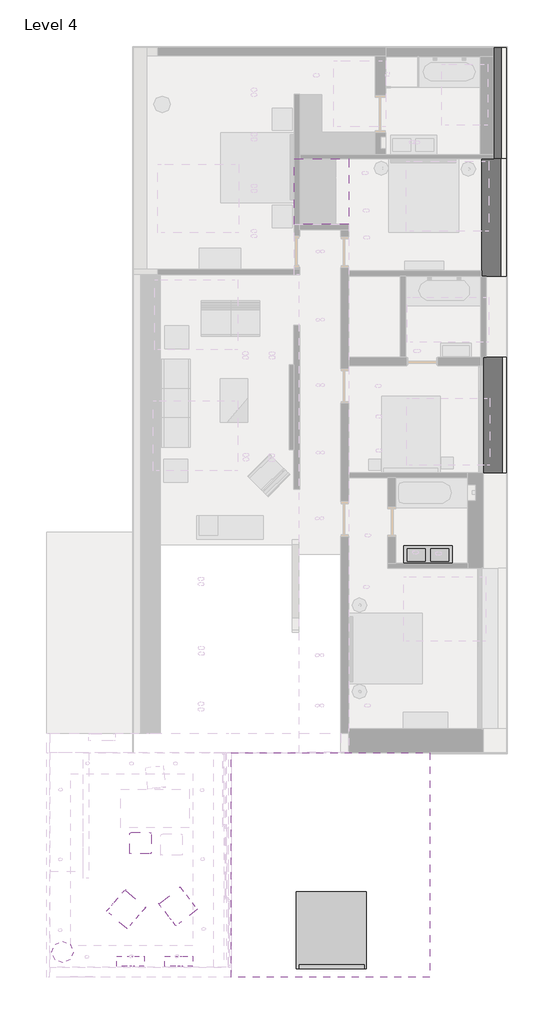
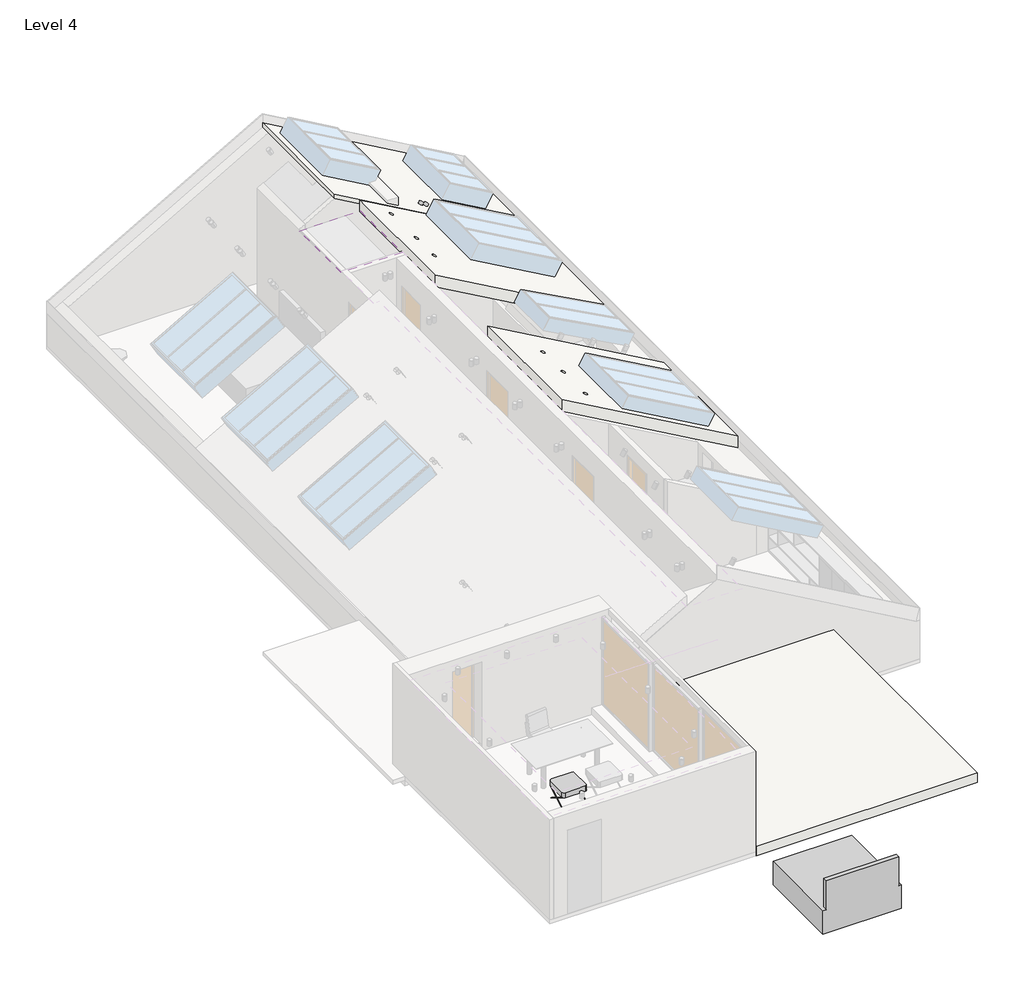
# One storey, part 4 of 5: 7 furniture elements, 4 coverings, 1 flow terminal, 1 slab.
"""IFC4 building model written with IfcOpenShell, lengths in millimetres."""

from ifc_helpers import new_model, si_unit, frame, origin, place, context, project, spatial, polyline, circle_curve, outline, extrude, transform, mapped, element, save
from ifc_brep_helpers import plane_surface, revolved_surface, advanced_brep
from components import sink_02_sink_02_cf3d63df, bed_02_bed_02_e58199c8, chair_1_chair_02_2_ef072ba1, chair_1_chair_03_2_cc471011, shelf_1_shelf_01_2_4a3e9cca, table_1_table_04_2_2a249767

model = new_model("IFC4")

# Units and contexts
model_context = context("Model", 3, world=origin())
ifc_project = project(units=[si_unit("LENGTHUNIT", "METRE", prefix="MILLI")], contexts=[model_context])

# Site, building, storey
site = spatial("IfcSite", under=ifc_project)
building = spatial("IfcBuilding", under=site)
storey = spatial("IfcBuildingStorey", under=building, Name="Level 4", Elevation=8080.0)

# Coverings
placement = place(None, origin())
element("IfcCovering", 1, ObjectType="Ceiling 3", at=placement, inside=storey, context=model_context, shape_type="AdvancedBrep", body=[
    advanced_brep(
    [(4897.3010582, 21310.5978406, 9192.3302965), (4897.3010582, 24410.5978406, 9192.3302965), (-122.6989418, 24410.5978406, 12067.3114042), (-122.6989418, 21310.5978406, 12067.3114042), (4152.2335295, 23920.4757913, 9619.0344935), (4152.2335295, 22270.4757913, 9619.0344935), (3110.9149854, 22270.4757913, 10215.4032467), (3110.9149854, 23920.4757913, 10215.4032467), (1322.0960381, 24020.5772713, 11239.8695174), (1322.0960381, 22220.5772713, 11239.8695174), (107.2244034, 22220.5772713, 11935.6330628), (107.2244034, 24020.5772713, 11935.6330628), (2288.1202814, 21724.0462651, 10686.6222168), (2288.1202814, 21824.0462651, 10686.6222168), (2409.4839647, 21716.3603994, 10617.11658), (2409.4839647, 21816.3603994, 10617.11658), (4897.3010582, 24410.5978406, 9077.091784), (4897.3010582, 21310.5978406, 9077.091784), (-122.6989418, 21310.5978406, 11952.0728917), (-122.6989418, 24410.5978406, 11952.0728917), (4102.5361333, 22270.4757913, 9532.2579482), (4102.5361333, 23920.4757913, 9532.2579482), (3061.2175893, 23920.4757913, 10128.6267014), (3061.2175893, 22270.4757913, 10128.6267014), (1272.398642, 22220.5772713, 11153.0929721), (1272.398642, 24020.5772713, 11153.0929721), (57.5270072, 24020.5772713, 11848.8565175), (57.5270072, 22220.5772713, 11848.8565175), (2238.4228853, 21824.0462651, 10599.8456714), (2238.4228853, 21724.0462651, 10599.8456714), (2359.7865686, 21816.3603994, 10530.3400347), (2359.7865686, 21716.3603994, 10530.3400347)],
    [
        (0, 1),
        (1, 2),
        (2, 3),
        (3, 0),
        (4, 5),
        (5, 6),
        (6, 7),
        (7, 4),
        (8, 9),
        (9, 10),
        (10, 11),
        (11, 8),
        (12, 13, circle_curve(frame((2288.1202814, 21774.0462651, 10686.6222168), z_axis=(-0.4969739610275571, 0.0, -0.8677654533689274), x_axis=(0.0, -1.0, 0.0)), 50.0)),
        (13, 12, circle_curve(frame((2288.1202814, 21774.0462651, 10686.6222168), z_axis=(-0.4969739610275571, 0.0, -0.8677654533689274), x_axis=(0.0, -1.0, 0.0)), 50.0)),
        (14, 15, circle_curve(frame((2409.4839647, 21766.3603994, 10617.11658), z_axis=(-0.4969739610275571, 0.0, -0.8677654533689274), x_axis=(0.0, -1.0, 0.0)), 50.0)),
        (15, 14, circle_curve(frame((2409.4839647, 21766.3603994, 10617.11658), z_axis=(-0.4969739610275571, 0.0, -0.8677654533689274), x_axis=(0.0, -1.0, 0.0)), 50.0)),
        (16, 17),
        (17, 18),
        (18, 19),
        (19, 16),
        (20, 21),
        (21, 22),
        (22, 23),
        (23, 20),
        (24, 25),
        (25, 26),
        (26, 27),
        (27, 24),
        (28, 29, circle_curve(frame((2238.4228853, 21774.0462651, 10599.8456714), z_axis=(0.4969739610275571, 0.0, 0.8677654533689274), x_axis=(0.0, -1.0, 0.0)), 50.0)),
        (29, 28, circle_curve(frame((2238.4228853, 21774.0462651, 10599.8456714), z_axis=(0.4969739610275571, 0.0, 0.8677654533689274), x_axis=(0.0, -1.0, 0.0)), 50.0)),
        (30, 31, circle_curve(frame((2359.7865686, 21766.3603994, 10530.3400347), z_axis=(0.4969739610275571, 0.0, 0.8677654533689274), x_axis=(0.0, -1.0, 0.0)), 50.0)),
        (31, 30, circle_curve(frame((2359.7865686, 21766.3603994, 10530.3400347), z_axis=(0.4969739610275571, 0.0, 0.8677654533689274), x_axis=(0.0, -1.0, 0.0)), 50.0)),
        (0, 17),
        (16, 1),
        (3, 18),
        (2, 19),
        (20, 5),
        (4, 21),
        (7, 22),
        (6, 23),
        (24, 9),
        (8, 25),
        (11, 26),
        (10, 27),
        (28, 13),
        (12, 29),
        (30, 15),
        (14, 31),
    ],
    [
        plane_surface(frame((4897.3010582, 22990.5978406, 9192.3302965), z_axis=(0.49697396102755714, 0.0, 0.8677654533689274), x_axis=(-0.8677654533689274, 0.0, 0.49697396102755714))),
        plane_surface(frame((4897.3010582, 22990.5978406, 9077.091784), z_axis=(-0.49697396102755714, 0.0, -0.8677654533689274), x_axis=(0.8677654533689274, 0.0, -0.49697396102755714))),
        plane_surface(frame((4897.3010582, 21310.5978406, 9192.3302965), z_axis=(1.0, 0.0, 0.0), x_axis=(0.0, 0.0, -1.0))),
        plane_surface(frame((-122.6989418, 21310.5978406, 12067.3114042), z_axis=(0.0, -1.0, 0.0), x_axis=(0.0, 0.0, -1.0))),
        plane_surface(frame((-122.6989418, 24410.5978406, 12067.3114042), z_axis=(-1.0, 0.0, 0.0), x_axis=(0.0, 0.0, -1.0))),
        plane_surface(frame((4897.3010582, 24410.5978406, 9192.3302965), z_axis=(0.0, 1.0, 0.0), x_axis=(0.0, 0.0, -1.0))),
        plane_surface(frame((4152.2335295, 22270.4757913, 9619.0344935), z_axis=(-0.8677654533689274, 0.0, 0.49697396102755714), x_axis=(-0.49697396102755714, 0.0, -0.8677654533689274))),
        plane_surface(frame((4152.2335295, 23920.4757913, 9619.0344935), z_axis=(0.0, -1.0, 0.0), x_axis=(-0.49697396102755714, 0.0, -0.8677654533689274))),
        plane_surface(frame((3110.9149854, 23920.4757913, 10215.4032467), z_axis=(0.8677654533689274, 0.0, -0.49697396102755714), x_axis=(-0.49697396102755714, 0.0, -0.8677654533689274))),
        plane_surface(frame((3110.9149854, 22270.4757913, 10215.4032467), z_axis=(0.0, 1.0, 0.0), x_axis=(-0.49697396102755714, 0.0, -0.8677654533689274))),
        plane_surface(frame((1322.0960381, 22220.5772713, 11239.8695174), z_axis=(-0.8677654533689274, 0.0, 0.49697396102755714), x_axis=(-0.49697396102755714, 0.0, -0.8677654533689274))),
        plane_surface(frame((1322.0960381, 24020.5772713, 11239.8695174), z_axis=(0.0, -1.0, 0.0), x_axis=(-0.49697396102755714, 0.0, -0.8677654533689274))),
        plane_surface(frame((107.2244034, 24020.5772713, 11935.6330628), z_axis=(0.8677654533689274, 0.0, -0.49697396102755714), x_axis=(-0.49697396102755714, 0.0, -0.8677654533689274))),
        plane_surface(frame((107.2244034, 22220.5772713, 11935.6330628), z_axis=(0.0, 1.0, 0.0), x_axis=(-0.49697396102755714, 0.0, -0.8677654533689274))),
        revolved_surface(polyline([(2288.1202814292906, 21724.0462651, 10686.622216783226), (2238.4228853, 21724.0462651, 10599.8456714)]), (2238.4228853, 21774.0462651, 10599.8456714), (0.4969739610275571, 0.0, 0.8677654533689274)),
        revolved_surface(polyline([(2409.4839646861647, 21716.3603994, 10617.116580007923), (2359.7865686, 21716.3603994, 10530.3400347)]), (2359.7865686, 21766.3603994, 10530.3400347), (0.4969739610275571, 0.0, 0.8677654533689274)),
    ],
    [
        (0, [[1, 2, 3, 4], [5, 6, 7, 8], [9, 10, 11, 12], [13, 14], [15, 16]]),
        (1, [[17, 18, 19, 20], [21, 22, 23, 24], [25, 26, 27, 28], [29, 30], [31, 32]]),
        (2, [[-1, 33, -17, 34]]),
        (3, [[-4, 35, -18, -33]]),
        (4, [[-3, 36, -19, -35]]),
        (5, [[-2, -34, -20, -36]]),
        (6, [[37, -5, 38, -21]]),
        (7, [[-38, -8, 39, -22]]),
        (8, [[-39, -7, 40, -23]]),
        (9, [[-37, -24, -40, -6]]),
        (10, [[41, -9, 42, -25]]),
        (11, [[-42, -12, 43, -26]]),
        (12, [[-43, -11, 44, -27]]),
        (13, [[-41, -28, -44, -10]]),
        (14, [[-29, 45, -13, 46]]),
        (14, [[-30, -46, -14, -45]]),
        (15, [[-31, 47, -15, 48]]),
        (15, [[-32, -48, -16, -47]]),
    ],
),
])
element("IfcCovering", 2, ObjectType="Ceiling 4", at=placement, inside=storey, context=model_context, shape_type="SweptSolid", body=[
    extrude(outline(polyline([(-999.3989418, 21310.5978406), (517.3010582, 21310.5978406), (517.3010582, 19495.5978406), (-999.3989418, 19495.5978406), (-999.3989418, 21310.5978406)])), frame((0.0, 0.0, 11405.0), z_axis=(0.0, 0.0, 1.0), x_axis=(1.0, 0.0, 0.0)), (0.0, 0.0, 1.0), 267.0),
])
element("IfcCovering", 3, ObjectType="Ceiling 4", at=placement, inside=storey, context=model_context, shape_type="AdvancedBrep", body=[
    advanced_brep(
    [(4897.3010582, 21310.5978406, 9193.8885164), (506.4168364, 21310.5978406, 11688.2579197), (506.4168364, 18050.5978406, 11688.2579197), (4897.3010582, 18050.5978406, 9193.8885164), (4181.8630579, 21221.430742, 9600.3138668), (4181.8630579, 19321.430742, 9600.3138668), (2129.8550242, 19321.430742, 10766.0166719), (2129.8550242, 21221.430742, 10766.0166719), (1102.6343809, 19175.5978406, 11349.5592145), (1102.6343809, 19075.5978406, 11349.5592145), (1089.8598824, 19926.159068, 11356.8161397), (1089.8598824, 19826.159068, 11356.8161397), (1060.6050144, 20965.5978406, 11373.4352178), (1060.6050144, 20865.5978406, 11373.4352178), (506.4168364, 21310.5978406, 11381.1830985), (4897.3010582, 21310.5978406, 8886.8136953), (4897.3010582, 18050.5978406, 8886.8136953), (506.4168364, 18050.5978406, 11381.1830985), (970.7519025, 19175.5978406, 11117.4040684), (970.7519025, 19075.5978406, 11117.4040684), (957.977404, 19926.159068, 11124.6609935), (957.977404, 19826.159068, 11124.6609935), (928.722536, 20965.5978406, 11141.2800716), (928.722536, 20865.5978406, 11141.2800716), (1997.9725459, 21221.430742, 10533.8615257), (1997.9725459, 18919.4551069, 10533.8615257), (4049.9805795, 18919.4551069, 9368.1587206), (4049.9805795, 21221.430742, 9368.1587206), (4157.2121223, 18919.4551069, 9556.9203726), (4157.2121223, 19321.430742, 9556.9203726), (2105.2040887, 19321.430742, 10722.6231778), (2105.2040887, 18919.4551069, 10722.6231778)],
    [
        (0, 1),
        (1, 2),
        (2, 3),
        (3, 0),
        (4, 5),
        (5, 6),
        (6, 7),
        (7, 4),
        (8, 9, circle_curve(frame((1102.6343809, 19125.5978406, 11349.5592145), z_axis=(-0.4939418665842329, 0.0, -0.869494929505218), x_axis=(0.0, -1.0, 0.0)), 50.0)),
        (9, 8, circle_curve(frame((1102.6343809, 19125.5978406, 11349.5592145), z_axis=(-0.4939418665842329, 0.0, -0.869494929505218), x_axis=(0.0, -1.0, 0.0)), 50.0)),
        (10, 11, circle_curve(frame((1089.8598824, 19876.159068, 11356.8161397), z_axis=(-0.4939418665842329, 0.0, -0.869494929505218), x_axis=(0.0, -1.0, 0.0)), 50.0)),
        (11, 10, circle_curve(frame((1089.8598824, 19876.159068, 11356.8161397), z_axis=(-0.4939418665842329, 0.0, -0.869494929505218), x_axis=(0.0, -1.0, 0.0)), 50.0)),
        (12, 13, circle_curve(frame((1060.6050144, 20915.5978406, 11373.4352178), z_axis=(-0.4939418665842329, 0.0, -0.869494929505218), x_axis=(0.0, -1.0, 0.0)), 50.0)),
        (13, 12, circle_curve(frame((1060.6050144, 20915.5978406, 11373.4352178), z_axis=(-0.4939418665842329, 0.0, -0.869494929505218), x_axis=(0.0, -1.0, 0.0)), 50.0)),
        (14, 15),
        (15, 16),
        (16, 17),
        (17, 14),
        (18, 19, circle_curve(frame((970.7519025, 19125.5978406, 11117.4040684), z_axis=(0.4939418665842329, 0.0, 0.869494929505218), x_axis=(0.0, -1.0, 0.0)), 50.0)),
        (19, 18, circle_curve(frame((970.7519025, 19125.5978406, 11117.4040684), z_axis=(0.4939418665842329, 0.0, 0.869494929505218), x_axis=(0.0, -1.0, 0.0)), 50.0)),
        (20, 21, circle_curve(frame((957.977404, 19876.159068, 11124.6609935), z_axis=(0.4939418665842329, 0.0, 0.869494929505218), x_axis=(0.0, -1.0, 0.0)), 50.0)),
        (21, 20, circle_curve(frame((957.977404, 19876.159068, 11124.6609935), z_axis=(0.4939418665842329, 0.0, 0.869494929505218), x_axis=(0.0, -1.0, 0.0)), 50.0)),
        (22, 23, circle_curve(frame((928.722536, 20915.5978406, 11141.2800716), z_axis=(0.4939418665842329, 0.0, 0.869494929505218), x_axis=(0.0, -1.0, 0.0)), 50.0)),
        (23, 22, circle_curve(frame((928.722536, 20915.5978406, 11141.2800716), z_axis=(0.4939418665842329, 0.0, 0.869494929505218), x_axis=(0.0, -1.0, 0.0)), 50.0)),
        (24, 25),
        (25, 26),
        (26, 27),
        (27, 24),
        (0, 15),
        (14, 1),
        (3, 16),
        (2, 17),
        (4, 27),
        (26, 28),
        (28, 29),
        (29, 5),
        (7, 24),
        (6, 30),
        (30, 31),
        (31, 25),
        (29, 30),
        (18, 8),
        (9, 19),
        (20, 10),
        (11, 21),
        (22, 12),
        (13, 23),
        (28, 31),
    ],
    [
        plane_surface(frame((4897.3010582, 20130.5978406, 9193.8885164), z_axis=(0.4939418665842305, 0.0, 0.8694949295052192), x_axis=(-0.8694949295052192, 0.0, 0.4939418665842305))),
        plane_surface(frame((4897.3010582, 20130.5978406, 8886.8136953), z_axis=(-0.4939418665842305, 0.0, -0.8694949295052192), x_axis=(0.8694949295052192, 0.0, -0.4939418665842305))),
        plane_surface(frame((4897.3010582, 21310.5978406, 9193.8885164), z_axis=(0.0, 1.0, 0.0), x_axis=(0.0, 0.0, -1.0))),
        plane_surface(frame((4897.3010582, 18050.5978406, 9193.8885164), z_axis=(1.0, 0.0, 0.0), x_axis=(0.0, 0.0, -1.0))),
        plane_surface(frame((506.4168364, 18050.5978406, 11688.2579197), z_axis=(0.0, -1.0, 0.0), x_axis=(0.0, 0.0, -1.0))),
        plane_surface(frame((506.4168364, 21310.5978406, 11688.2579197), z_axis=(-1.0, 0.0, 0.0), x_axis=(0.0, 0.0, -1.0))),
        plane_surface(frame((4181.8630579, 19321.430742, 9600.3138668), z_axis=(-0.869494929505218, 0.0, 0.49394186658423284), x_axis=(-0.49394186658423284, 0.0, -0.869494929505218))),
        plane_surface(frame((4181.8630579, 21221.430742, 9600.3138668), z_axis=(0.0, -1.0000000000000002, 0.0), x_axis=(-0.49394186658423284, 0.0, -0.869494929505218))),
        plane_surface(frame((2129.8550242, 21221.430742, 10766.0166719), z_axis=(0.869494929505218, 0.0, -0.49394186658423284), x_axis=(-0.49394186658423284, 0.0, -0.869494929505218))),
        plane_surface(frame((2129.8550242, 19321.430742, 10766.0166719), z_axis=(0.0, 1.0000000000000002, 0.0), x_axis=(-0.49394186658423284, 0.0, -0.869494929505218))),
        revolved_surface(polyline([(1102.6343808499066, 19075.5978406, 11349.559214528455), (970.7519025, 19075.5978406, 11117.4040684)]), (970.7519025, 19125.5978406, 11117.4040684), (0.4939418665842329, 0.0, 0.869494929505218)),
        revolved_surface(polyline([(1089.8598823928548, 19826.159068, 11356.81613970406), (957.977404, 19826.159068, 11124.6609935)]), (957.977404, 19876.159068, 11124.6609935), (0.4939418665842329, 0.0, 0.869494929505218)),
        revolved_surface(polyline([(1060.6050143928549, 20865.5978406, 11373.43521780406), (928.722536, 20865.5978406, 11141.2800716)]), (928.722536, 20915.5978406, 11141.2800716), (0.4939418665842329, 0.0, 0.869494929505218)),
        plane_surface(frame((2105.2040887, 19321.430742, 10722.6231778), z_axis=(-0.49394186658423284, 0.0, -0.869494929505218), x_axis=(0.0, -1.0, 0.0))),
        plane_surface(frame((2105.2040887, 18919.4551069, 10722.6231778), z_axis=(0.0, 1.0, 0.0), x_axis=(-0.49394186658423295, 0.0, -0.8694949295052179))),
    ],
    [
        (0, [[1, 2, 3, 4], [5, 6, 7, 8], [9, 10], [11, 12], [13, 14]]),
        (1, [[15, 16, 17, 18], [19, 20], [21, 22], [23, 24], [25, 26, 27, 28]]),
        (2, [[-1, 29, -15, 30]]),
        (3, [[-4, 31, -16, -29]]),
        (4, [[-3, 32, -17, -31]]),
        (5, [[-2, -30, -18, -32]]),
        (6, [[-5, 33, -27, 34, 35, 36]]),
        (7, [[-33, -8, 37, -28]]),
        (8, [[-37, -7, 38, 39, 40, -25]]),
        (9, [[-6, -36, 41, -38]]),
        (10, [[-19, 42, -10, 43]]),
        (10, [[-20, -43, -9, -42]]),
        (11, [[-21, 44, -12, 45]]),
        (11, [[-22, -45, -11, -44]]),
        (12, [[-23, 46, -14, 47]]),
        (12, [[-24, -47, -13, -46]]),
        (13, [[48, -39, -41, -35]]),
        (14, [[-48, -34, -26, -40]]),
    ],
),
])
element("IfcCovering", 4, ObjectType="Ceiling 4", at=placement, inside=storey, context=model_context, shape_type="AdvancedBrep", body=[
    advanced_brep(
    [(4897.3010582, 15795.5978406, 9218.8885164), (506.4168364, 15795.5978406, 11713.2579197), (506.4168364, 12600.5978406, 11713.2579197), (4897.3010582, 12600.5978406, 9218.8885164), (4256.1057989, 14640.6037976, 9583.1381198), (4256.1057989, 12820.6037976, 9583.1381198), (2134.538171, 12820.6037976, 10788.3562743), (2134.538171, 14640.6037976, 10788.3562743), (1426.1205726, 15054.4155363, 11190.7934812), (1426.1205726, 14954.4155363, 11190.7934812), (1441.7566047, 14202.6606873, 11181.9109787), (1441.7566047, 14102.6606873, 11181.9109787), (1448.8946811, 13259.9659447, 11177.8559869), (1448.8946811, 13159.9659447, 11177.8559869), (506.4168364, 15795.5978406, 11406.1830985), (4897.3010582, 15795.5978406, 8911.8136953), (4897.3010582, 12600.5978406, 8911.8136953), (506.4168364, 12600.5978406, 11406.1830985), (1294.2380942, 15054.4155363, 10958.638335), (1294.2380942, 14954.4155363, 10958.638335), (1309.8741263, 14202.6606873, 10949.7558326), (1309.8741263, 14102.6606873, 10949.7558326), (1317.0122027, 13259.9659447, 10945.7008408), (1317.0122027, 13159.9659447, 10945.7008408), (2002.6556926, 14640.6037976, 10556.2011281), (2002.6556926, 12820.6037976, 10556.2011281), (4124.2233206, 12820.6037976, 9350.9829737), (4124.2233206, 14640.6037976, 9350.9829737)],
    [
        (0, 1),
        (1, 2),
        (2, 3),
        (3, 0),
        (4, 5),
        (5, 6),
        (6, 7),
        (7, 4),
        (8, 9, circle_curve(frame((1426.1205726, 15004.4155363, 11190.7934812), z_axis=(-0.4939418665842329, 0.0, -0.869494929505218), x_axis=(0.0, -1.0, 0.0)), 50.0)),
        (9, 8, circle_curve(frame((1426.1205726, 15004.4155363, 11190.7934812), z_axis=(-0.4939418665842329, 0.0, -0.869494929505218), x_axis=(0.0, -1.0, 0.0)), 50.0)),
        (10, 11, circle_curve(frame((1441.7566047, 14152.6606873, 11181.9109787), z_axis=(-0.4939418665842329, 0.0, -0.869494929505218), x_axis=(0.0, -1.0, 0.0)), 50.0)),
        (11, 10, circle_curve(frame((1441.7566047, 14152.6606873, 11181.9109787), z_axis=(-0.4939418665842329, 0.0, -0.869494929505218), x_axis=(0.0, -1.0, 0.0)), 50.0)),
        (12, 13, circle_curve(frame((1448.8946811, 13209.9659447, 11177.8559869), z_axis=(-0.4939418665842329, 0.0, -0.869494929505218), x_axis=(0.0, -1.0, 0.0)), 50.0)),
        (13, 12, circle_curve(frame((1448.8946811, 13209.9659447, 11177.8559869), z_axis=(-0.4939418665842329, 0.0, -0.869494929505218), x_axis=(0.0, -1.0, 0.0)), 50.0)),
        (14, 15),
        (15, 16),
        (16, 17),
        (17, 14),
        (18, 19, circle_curve(frame((1294.2380942, 15004.4155363, 10958.638335), z_axis=(0.4939418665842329, 0.0, 0.869494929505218), x_axis=(0.0, -1.0, 0.0)), 50.0)),
        (19, 18, circle_curve(frame((1294.2380942, 15004.4155363, 10958.638335), z_axis=(0.4939418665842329, 0.0, 0.869494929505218), x_axis=(0.0, -1.0, 0.0)), 50.0)),
        (20, 21, circle_curve(frame((1309.8741263, 14152.6606873, 10949.7558326), z_axis=(0.4939418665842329, 0.0, 0.869494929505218), x_axis=(0.0, -1.0, 0.0)), 50.0)),
        (21, 20, circle_curve(frame((1309.8741263, 14152.6606873, 10949.7558326), z_axis=(0.4939418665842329, 0.0, 0.869494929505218), x_axis=(0.0, -1.0, 0.0)), 50.0)),
        (22, 23, circle_curve(frame((1317.0122027, 13209.9659447, 10945.7008408), z_axis=(0.4939418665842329, 0.0, 0.869494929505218), x_axis=(0.0, -1.0, 0.0)), 50.0)),
        (23, 22, circle_curve(frame((1317.0122027, 13209.9659447, 10945.7008408), z_axis=(0.4939418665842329, 0.0, 0.869494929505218), x_axis=(0.0, -1.0, 0.0)), 50.0)),
        (24, 25),
        (25, 26),
        (26, 27),
        (27, 24),
        (0, 15),
        (14, 1),
        (3, 16),
        (2, 17),
        (26, 5),
        (4, 27),
        (7, 24),
        (6, 25),
        (18, 8),
        (9, 19),
        (20, 10),
        (11, 21),
        (22, 12),
        (13, 23),
    ],
    [
        plane_surface(frame((4897.3010582, 14530.5978406, 9218.8885164), z_axis=(0.4939418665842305, 0.0, 0.8694949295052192), x_axis=(-0.8694949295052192, 0.0, 0.4939418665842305))),
        plane_surface(frame((4897.3010582, 14530.5978406, 8911.8136953), z_axis=(-0.4939418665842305, 0.0, -0.8694949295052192), x_axis=(0.8694949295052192, 0.0, -0.4939418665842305))),
        plane_surface(frame((4897.3010582, 15795.5978406, 9218.8885164), z_axis=(0.0, 1.0, 0.0), x_axis=(0.0, 0.0, -1.0))),
        plane_surface(frame((4897.3010582, 12600.5978406, 9218.8885164), z_axis=(1.0, 0.0, 0.0), x_axis=(0.0, 0.0, -1.0))),
        plane_surface(frame((506.4168364, 12600.5978406, 11713.2579197), z_axis=(0.0, -1.0, 0.0), x_axis=(0.0, 0.0, -1.0))),
        plane_surface(frame((506.4168364, 15795.5978406, 11713.2579197), z_axis=(-1.0, 0.0, 0.0), x_axis=(0.0, 0.0, -1.0))),
        plane_surface(frame((4256.1057989, 12820.6037976, 9583.1381198), z_axis=(-0.869494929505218, 0.0, 0.49394186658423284), x_axis=(-0.49394186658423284, 0.0, -0.869494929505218))),
        plane_surface(frame((4256.1057989, 14640.6037976, 9583.1381198), z_axis=(0.0, -1.0000000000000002, 0.0), x_axis=(-0.49394186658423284, 0.0, -0.869494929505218))),
        plane_surface(frame((2134.538171, 14640.6037976, 10788.3562743), z_axis=(0.869494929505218, 0.0, -0.49394186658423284), x_axis=(-0.49394186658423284, 0.0, -0.869494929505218))),
        plane_surface(frame((2134.538171, 12820.6037976, 10788.3562743), z_axis=(0.0, 1.0000000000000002, 0.0), x_axis=(-0.49394186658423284, 0.0, -0.869494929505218))),
        revolved_surface(polyline([(1426.1205725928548, 14954.4155363, 11190.79348120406), (1294.2380942, 14954.4155363, 10958.638335)]), (1294.2380942, 15004.4155363, 10958.638335), (0.4939418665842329, 0.0, 0.869494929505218)),
        revolved_surface(polyline([(1441.7566046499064, 14102.6606873, 11181.910978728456), (1309.8741263, 14102.6606873, 10949.7558326)]), (1309.8741263, 14152.6606873, 10949.7558326), (0.4939418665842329, 0.0, 0.869494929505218)),
        revolved_surface(polyline([(1448.8946810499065, 13159.9659447, 11177.855986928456), (1317.0122027, 13159.9659447, 10945.7008408)]), (1317.0122027, 13209.9659447, 10945.7008408), (0.4939418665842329, 0.0, 0.869494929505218)),
    ],
    [
        (0, [[1, 2, 3, 4], [5, 6, 7, 8], [9, 10], [11, 12], [13, 14]]),
        (1, [[15, 16, 17, 18], [19, 20], [21, 22], [23, 24], [25, 26, 27, 28]]),
        (2, [[-1, 29, -15, 30]]),
        (3, [[-4, 31, -16, -29]]),
        (4, [[-3, 32, -17, -31]]),
        (5, [[-2, -30, -18, -32]]),
        (6, [[-27, 33, -5, 34]]),
        (7, [[-34, -8, 35, -28]]),
        (8, [[-35, -7, 36, -25]]),
        (9, [[-33, -26, -36, -6]]),
        (10, [[-19, 37, -10, 38]]),
        (10, [[-20, -38, -9, -37]]),
        (11, [[-21, 39, -12, 40]]),
        (11, [[-22, -40, -11, -39]]),
        (12, [[-23, 41, -14, 42]]),
        (12, [[-24, -42, -13, -41]]),
    ],
),
])

# Flow terminal
sink_02_sink_02_shape = sink_02_sink_02_cf3d63df(model_context)
element("IfcFlowTerminal", 5, ObjectType="Sink_02 : Sink_02", at=placement, inside=storey, context=model_context, shape_type="MappedRepresentation", body=[
    mapped(sink_02_sink_02_shape, transform((0.0, -29.1944697, 0.0), x_axis=(1.0, 0.0, 0.0), y_axis=(0.0, 1.0, 0.0), z_axis=(0.0, 0.0, 1.0))),
])

# Furniture
bed_02_bed_02_shape = bed_02_bed_02_e58199c8(model_context)
element("IfcFurniture", 6, ObjectType="Bed_02 : Bed_02", at=placement, inside=storey, context=model_context, shape_type="MappedRepresentation", body=[
    mapped(bed_02_bed_02_shape, transform((26.4522752, -107.6532263, 6510.0), x_axis=(1.0, 0.0, 0.0), y_axis=(0.0, 1.0, 0.0), z_axis=(0.0, 0.0, 1.0))),
])
chair_1_chair_02_2_shape = chair_1_chair_02_2_ef072ba1(model_context)
element("IfcFurniture", 7, ObjectType="Chair_1 : Chair_02 2", at=placement, inside=storey, context=model_context, shape_type="MappedRepresentation", body=[
    mapped(chair_1_chair_02_2_shape, transform((-5275.2798738, 2309.0749211, 9443.5688055), x_axis=(1.0, 0.0, 0.0), y_axis=(0.0, 1.0, 0.0), z_axis=(0.0, 0.0, 1.0))),
])
chair_1_chair_03_2_shape = chair_1_chair_03_2_cc471011(model_context)
element("IfcFurniture", 8, ObjectType="Chair_1 : Chair_03 2", at=placement, inside=storey, context=model_context, shape_type="MappedRepresentation", body=[
    mapped(chair_1_chair_03_2_shape, transform((-5671.7411774, 473.5577272, 9443.2171921), x_axis=(1.0, 0.0, 0.0), y_axis=(0.0, 1.0, 0.0), z_axis=(0.0, 0.0, 1.0))),
])
element("IfcFurniture", 9, ObjectType="Chair_1 : Chair_03 2", at=placement, inside=storey, context=model_context, shape_type="MappedRepresentation", body=[
    mapped(chair_1_chair_03_2_shape, transform((-4230.1859541, 549.8767953, 9443.2171921), x_axis=(0.19080899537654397, 0.9816271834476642, 0.0), y_axis=(-0.9816271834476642, 0.19080899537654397, 0.0), z_axis=(0.0, 0.0, 1.0))),
])
shelf_1_shelf_01_2_shape = shelf_1_shelf_01_2_4a3e9cca(model_context)
element("IfcFurniture", 10, ObjectType="Shelf_1 : Shelf_01 2", at=placement, inside=storey, context=model_context, shape_type="MappedRepresentation", body=[
    mapped(shelf_1_shelf_01_2_shape, transform((-4208.8041766, -976.478646, 9450.0), x_axis=(1.0, 0.0, 0.0), y_axis=(0.0, 1.0, 0.0), z_axis=(0.0, 0.0, 1.0))),
])
element("IfcFurniture", 11, ObjectType="Shelf_1 : Shelf_01 2", at=placement, inside=storey, context=model_context, shape_type="MappedRepresentation", body=[
    mapped(shelf_1_shelf_01_2_shape, transform((-5553.8041766, -976.478646, 9450.0), x_axis=(1.0, 0.0, 0.0), y_axis=(0.0, 1.0, 0.0), z_axis=(0.0, 0.0, 1.0))),
])
table_1_table_04_2_shape = table_1_table_04_2_2a249767(model_context)
element("IfcFurniture", 12, ObjectType="Table_1 : Table_04 2", at=placement, inside=storey, context=model_context, shape_type="MappedRepresentation", body=[
    mapped(table_1_table_04_2_shape, transform((-7433.2469846, -715.7498335, 9450.0), x_axis=(1.0, 0.0, 0.0), y_axis=(0.0, 1.0, 0.0), z_axis=(0.0, 0.0, 1.0))),
])

# Slab
element("IfcSlab", 13, ObjectType="Floor_250", at=placement, inside=storey, context=model_context, shape_type="SweptSolid", body=[
    extrude(outline(polyline([(-2751.3974698, -1421.1735117), (-2751.3974698, 4825.5198069), (2759.4980081, 4825.5198069), (2759.4980081, -1421.1735117), (-2751.3974698, -1421.1735117)])), frame((0.0, 0.0, 9350.0), z_axis=(0.0, 0.0, 1.0), x_axis=(1.0, 0.0, 0.0)), (0.0, 0.0, 1.0), 250.0),
])

save(model, "model.ifc")
